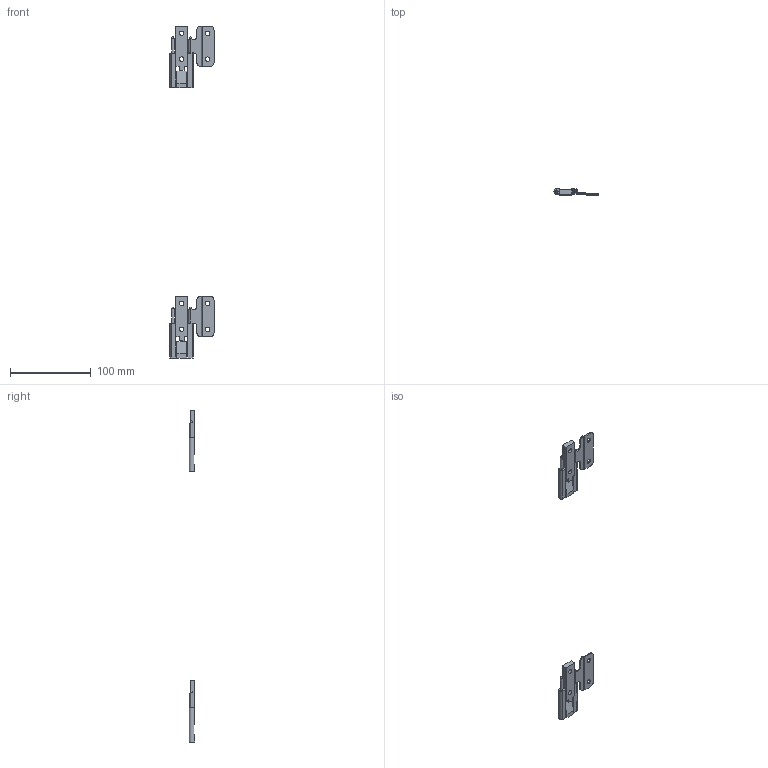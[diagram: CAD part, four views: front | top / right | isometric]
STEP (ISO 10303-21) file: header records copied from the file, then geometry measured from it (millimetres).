
FILE_DESCRIPTION( ( 'STEP AP214' ), '1' );
FILE_NAME( 'C:/Users/KOSH/Desktop/Export/Wingline L/9279043.stp', '2020-02-17T10:04:22', ( '' ), ( '' ), ' ', 'PARTsolutions', ' ' );
FILE_SCHEMA( ( 'AUTOMOTIVE_DESIGN { 1 0 10303 214 1 1 1 1 }' ) );
Length unit declared in the file: millimetre
Products named in the file (3): 9279043; _9229920; _9236605
Assembly tree (4 placements, depth 2):
  9279043
    _9229920  x2
    _9236605  x2
Bounding box: 54.5 x 7.25 x 410.5 mm (x, y, z)
Volume: 20242.7 mm3; surface area: 16621.7 mm2
Topology: 4 solids, 4 shells, 142 faces, 378 edges, 248 vertices
Faces by surface type: plane 100, cylinder 38, cone 4
Full cylindrical faces by diameter (mm): 0.5 x4, 3 x4, 5.5 x4, 5.6 x4
Entity records: 2769 total; most frequent: CARTESIAN_POINT 371, DIRECTION 369, ORIENTED_EDGE 350, EDGE_CURVE 175, LINE 133, VECTOR 133, VERTEX_POINT 120, AXIS2_PLACEMENT_3D 118
